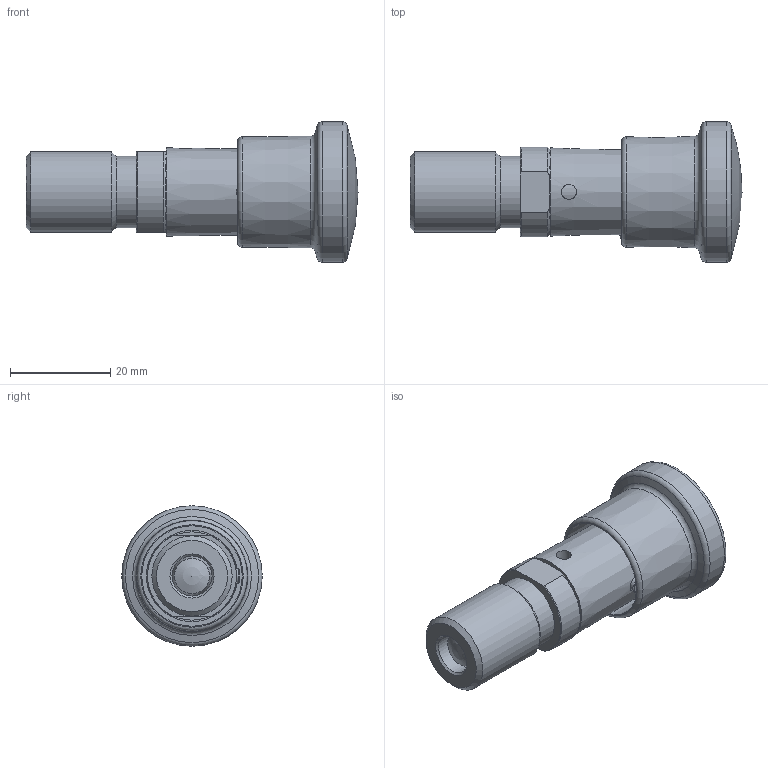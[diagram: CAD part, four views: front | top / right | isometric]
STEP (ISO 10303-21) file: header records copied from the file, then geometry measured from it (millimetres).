
FILE_DESCRIPTION( ( 'STEP AP203' ), '1' );
FILE_NAME( 'C:/Temp/Ganter_Step_05_03_2020/data/3_1/gn816_1/gn_816_1_a/Locking plunger GN 816.1-8-M16x1,5-A (deactivated).stp', '2020-03-12T08:56:07', ( 'License CC BY-ND 4.0' ), ( 'CADENAS' ), ' ', 'PARTsolutions', ' ' );
FILE_SCHEMA( ( 'CONFIG_CONTROL_DESIGN' ) );
Length unit declared in the file: millimetre
Products named in the file (3): Locking plunger GN 816.1-8-M16x1,5-A (deactivated); _GN 816.1-8-M16x1,5-A(0)-a2; _GN 816.1-8-M16x1,5-A-a1
Assembly tree (2 placements, depth 2):
  Locking plunger GN 816.1-8-M16x1,5-A (deactivated)
    _GN 816.1-8-M16x1,5-A(0)-a2
    _GN 816.1-8-M16x1,5-A-a1
Bounding box: 66.2 x 28 x 28 mm (x, y, z)
Volume: 14284.4 mm3; surface area: 10437.1 mm2
Topology: 2 solids, 2 shells, 54 faces, 112 edges, 70 vertices
Faces by surface type: cone 17, cylinder 15, plane 14, torus 6, sphere 2
Full cylindrical faces by diameter (mm): 2.9 x1, 3 x2, 8 x2, 11 x1, 11.1 x1, 14.2 x2, 16 x1, 18.2 x1, 20.017 x1, 28 x1
Entity records: 1570 total; most frequent: CARTESIAN_POINT 468, DIRECTION 220, ORIENTED_EDGE 140, AXIS2_PLACEMENT_3D 106, EDGE_LOOP 102, FACE_OUTER_BOUND 73, EDGE_CURVE 70, VERTEX_POINT 64
